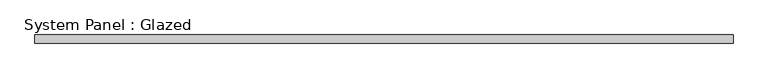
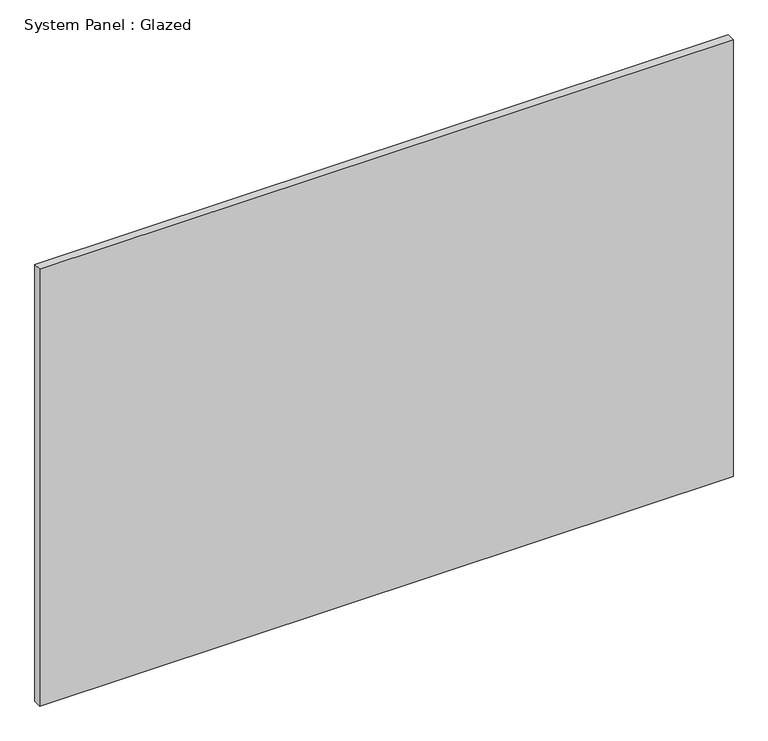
"""IFC4 building model written with IfcOpenShell, lengths in millimetres: plate geometry, System Panel : Glazed."""

from ifc_helpers import new_model, si_unit, origin, origin_with_axes, place, context, project, spatial, polyline, outline, extrude, source, transform, mapped, element, save


def system_panel_glazed_8cde6b59(model_context):
    return source(origin(), model_context, "Body", "SweptSolid", [
        extrude(outline(polyline([(1095.375, 19.05), (-1095.375, 19.05), (-1095.375, 44.45), (1095.375, 44.45), (1095.375, 19.05)])), origin_with_axes(), (0.0, 0.0, 1.0), 1460.5),
    ])


if __name__ == "__main__":
    model = new_model("IFC4")
    model_context = context("Model", 3, world=origin())
    ifc_project = project(units=[si_unit("LENGTHUNIT", "METRE", prefix="MILLI")], contexts=[model_context])
    site = spatial("IfcSite", under=ifc_project)
    building = spatial("IfcBuilding", under=site)
    placement = place(None, origin())
    system_panel_glazed_shape = system_panel_glazed_8cde6b59(model_context)
    element("IfcPlate", 1, ObjectType="System Panel : Glazed", at=placement, inside=building, context=model_context, shape_type="MappedRepresentation", body=[
        mapped(system_panel_glazed_shape, transform((0.0, 0.0, 0.0), x_axis=(1.0, 0.0, 0.0), y_axis=(0.0, 1.0, 0.0), z_axis=(0.0, 0.0, 1.0))),
    ])
    save(model, "model.ifc")
